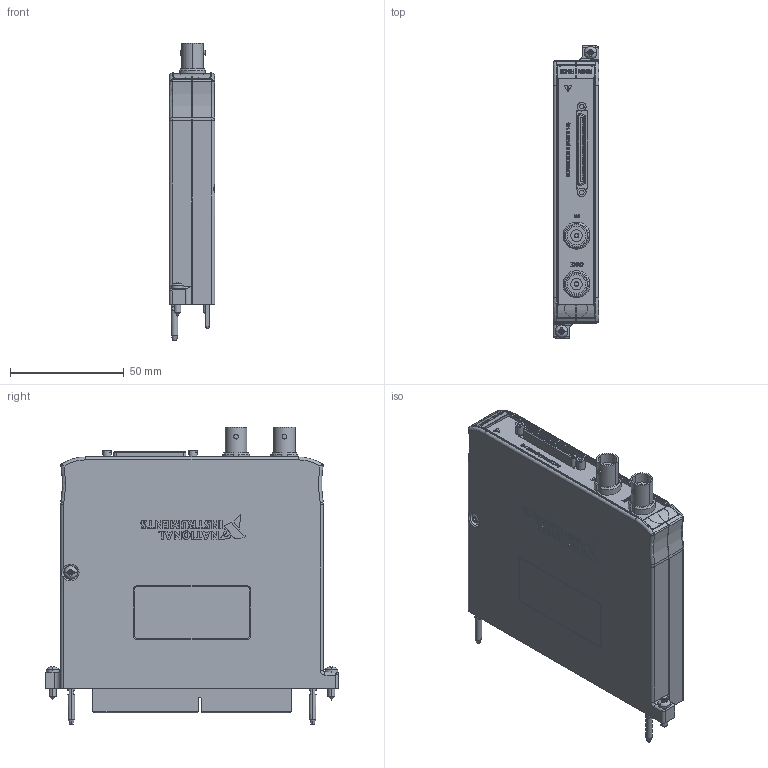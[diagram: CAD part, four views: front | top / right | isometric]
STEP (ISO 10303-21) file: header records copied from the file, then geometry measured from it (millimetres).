
FILE_DESCRIPTION((''),'2;1');
FILE_NAME('CD_NI-6584','2010-01-19T',('jjorden'),(''),'PRO/ENGINEER BY PARAMETRIC TECHNOLOGY CORPORATION, 2006080','PRO/ENGINEER BY PARAMETRIC TECHNOLOGY CORPORATION, 2006080','');
FILE_SCHEMA(('CONFIG_CONTROL_DESIGN'));
Products named in the file (1): CD_NI-6584
Bounding box: 20.12 x 128.65 x 130.87 mm (x, y, z)
Volume: 57329.2 mm3; surface area: 94767.7 mm2
Topology: 2 solids, 2 shells, 3737 faces, 9886 edges, 6364 vertices
Faces by surface type: plane 2450, cylinder 542, extrusion 425, cone 136, bspline 106, sphere 40, torus 38
Entity records: 131460 total; most frequent: CARTESIAN_POINT 40196, ORIENTED_EDGE 19692, DIRECTION 16883, EDGE_CURVE 9846, VECTOR 7425, LINE 7000, VERTEX_POINT 6516, AXIS2_PLACEMENT_3D 4729
